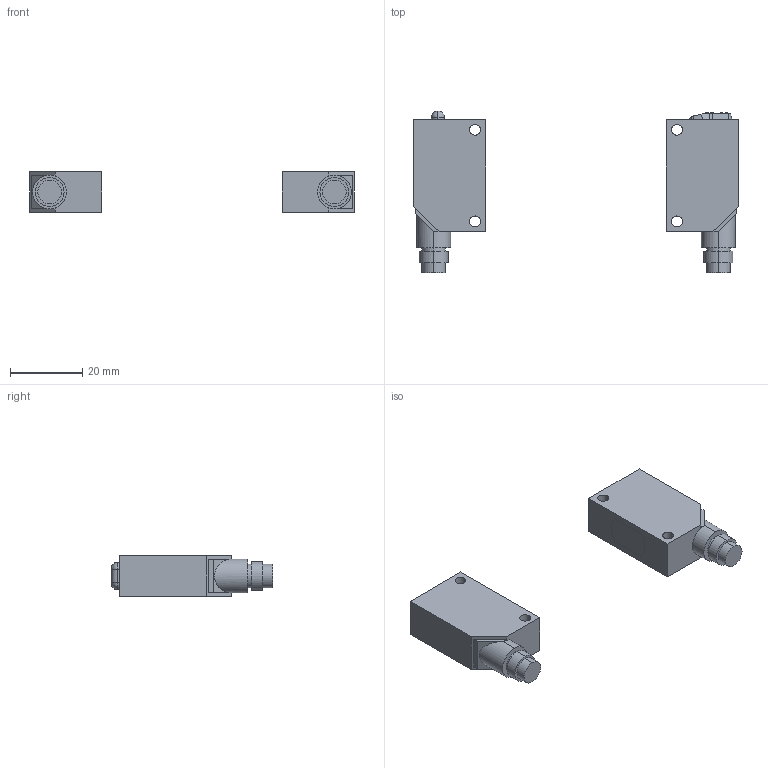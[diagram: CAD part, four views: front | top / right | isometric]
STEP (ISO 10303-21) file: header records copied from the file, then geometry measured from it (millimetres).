
FILE_DESCRIPTION (( 'STEP AP203' ), '1' );
FILE_NAME ('cx-411-z.STEP', '2008-09-10T00:50:04', ( ' ' ), ( ' ' ), 'SwSTEP 2.0', 'SolidWorks 2007', '' );
FILE_SCHEMA (( 'CONFIG_CONTROL_DESIGN' ));
Length unit declared in the file: millimetre
Products named in the file (3): CX-411D-Z_蹬怮椔; CX-411E-Z_蹬怮椔; cx-411-z
Assembly tree (2 placements, depth 2):
  cx-411-z
    CX-411D-Z_蹬怮椔
    CX-411E-Z_蹬怮椔
Bounding box: 90 x 44.9 x 11.2 mm (x, y, z)
Volume: 14646 mm3; surface area: 5785 mm2
Topology: 2 solids, 2 shells, 118 faces, 287 edges, 180 vertices
Faces by surface type: cylinder 54, plane 54, cone 4, sphere 4, bspline 2
Entity records: 3804 total; most frequent: CARTESIAN_POINT 687, DIRECTION 615, ORIENTED_EDGE 566, EDGE_CURVE 283, AXIS2_PLACEMENT_3D 230, VERTEX_POINT 180, VECTOR 155, LINE 155
